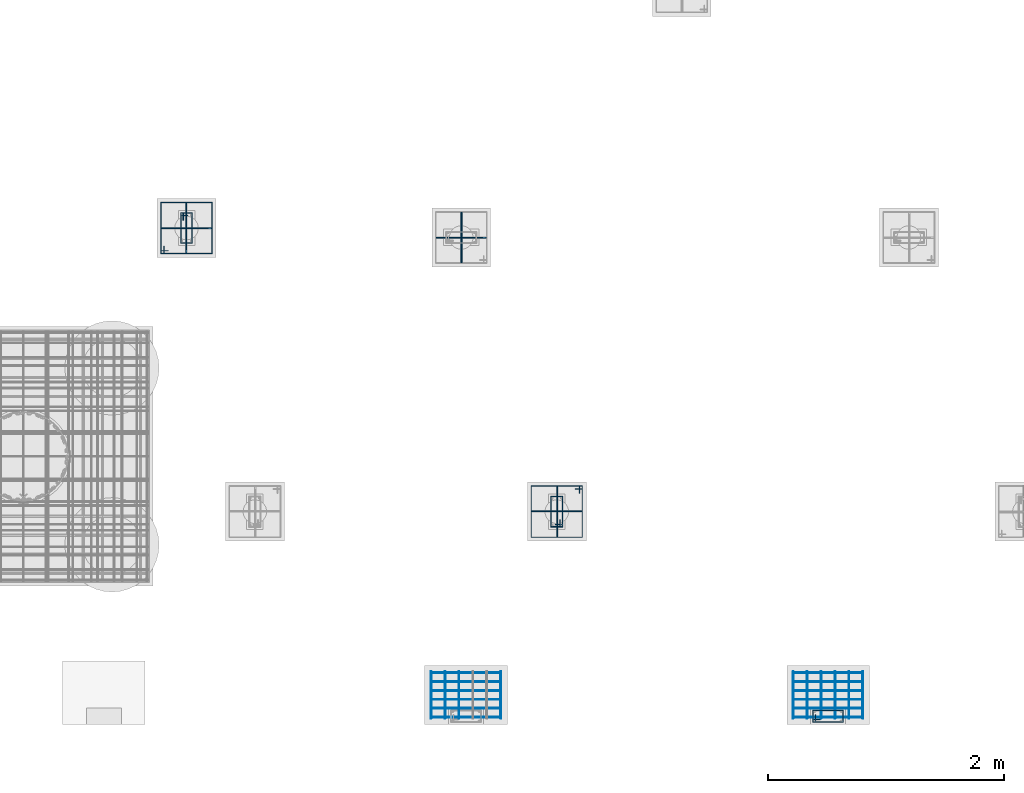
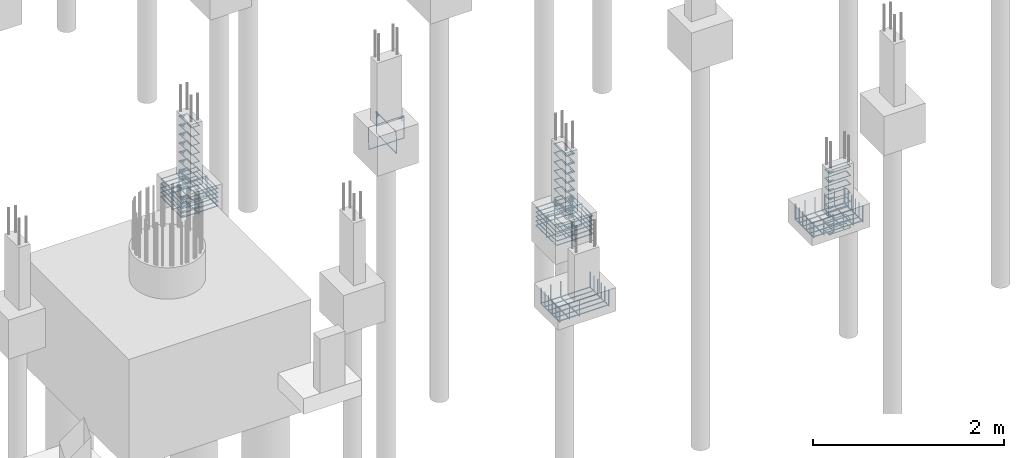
# One storey, part 78 of 119: 66 reinforcing bars.
"""IFC4 building model written with IfcOpenShell, lengths in centimetres."""

from ifc_helpers import new_model, entity, si_unit, derived_unit, frame, origin_with_axes, place, context, project, spatial, source, transform, mapped, element, save


model = new_model("IFC4")

# Units and contexts
model_context = context("Model", 3, precision=1e-05, world=origin_with_axes(), identifier="Body")
ifc_project = project(units=[si_unit("LENGTHUNIT", "METRE", prefix="CENTI"), si_unit("VOLUMEUNIT", "CUBIC_METRE"), si_unit("AREAUNIT", "SQUARE_METRE"), si_unit("POWERUNIT", "WATT"), si_unit("LUMINOUSFLUXUNIT", "LUMEN"), si_unit("ELECTRICCURRENTUNIT", "AMPERE"), si_unit("PRESSUREUNIT", "PASCAL", prefix="KILO"), si_unit("MASSUNIT", "GRAM", prefix="KILO"), si_unit("PLANEANGLEUNIT", "RADIAN"), derived_unit("VOLUMETRICFLOWRATEUNIT", [(si_unit("LENGTHUNIT", "METRE"), 3), (si_unit("TIMEUNIT", "SECOND"), -1)])], contexts=[model_context])

# Site, building, storey
site_placement = place(None, frame((-4000.0, 0.0, 0.0), z_axis=(0.0, 0.0, 1.0), x_axis=(1.0, 0.0, 0.0)))
site = spatial("IfcSite", under=ifc_project, at=site_placement, Name="PADRÃO")
building_placement = place(site_placement, frame((0.0, 0.0, -14.0)))
building = spatial("IfcBuilding", under=site, at=building_placement, Name="CRECHE PRÉ-ESCOLA TIPO 2")
storey_placement = place(building_placement, origin_with_axes())
storey = spatial("IfcBuildingStorey", under=building, at=storey_placement, Name="FUNDAÇÃO", CompositionType="ELEMENT", Elevation=-14.0)

# Reinforcing bars
shared_shape_1 = source(origin_with_axes(), model_context, "Body", "AdvancedSweptSolid", [
    entity("IfcSweptDiskSolid", entity("IfcCompositeCurve", [entity("IfcCompositeCurveSegment", "CONTINUOUS", True, entity("IfcPolyline", [entity("IfcCartesianPoint", [0.0, 0.0, 19.6]), entity("IfcCartesianPoint", [0.0, 0.0, 0.0])])), entity("IfcCompositeCurveSegment", "CONTINUOUS", True, entity("IfcPolyline", [entity("IfcCartesianPoint", [0.0, 0.0, 0.0]), entity("IfcCartesianPoint", [39.2, 0.0, 0.0])])), entity("IfcCompositeCurveSegment", "CONTINUOUS", True, entity("IfcPolyline", [entity("IfcCartesianPoint", [39.2, 0.0, 0.0]), entity("IfcCartesianPoint", [39.2, 0.0, 19.6])]))], False), 0.4),
])
for number, where, z_axis, x_axis, name in (
    (1, (2790.1, 7.4, -83.6), (0.0, 0.0, 1.0), (0.0, 1.0, 0.0), "P164 - Sapatas (inferior)"),
    (2, (2730.9, 7.4, -83.6), (0.0, 0.0, 1.0), (0.0, 1.0, 0.0), "P164 - Sapatas (inferior)"),
    (3, (2742.74, 7.4, -83.6), (0.0, 0.0, 1.0), (0.0, 1.0, 0.0), "P164 - Sapatas (inferior)"),
    (4, (2754.58, 7.4, -83.6), (0.0, 0.0, 1.0), (0.0, 1.0, 0.0), "P164 - Sapatas (inferior)"),
):
    element("IfcReinforcingBar", number, at=place(storey_placement, frame(where, z_axis=z_axis, x_axis=x_axis)), inside=storey, Name=name, BarLength=0.0, CrossSectionArea=5.0265482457e-05, NominalDiameter=0.8, PredefinedType="MAIN", context=model_context, shape_type="MappedRepresentation", body=[
        mapped(shared_shape_1, transform((0.0, 0.0, 0.0), scale=1.0)),
    ])
shared_shape_2 = source(origin_with_axes(), model_context, "Body", "AdvancedSweptSolid", [
    entity("IfcSweptDiskSolid", entity("IfcCompositeCurve", [entity("IfcCompositeCurveSegment", "CONTINUOUS", True, entity("IfcPolyline", [entity("IfcCartesianPoint", [0.0, 0.0, 18.8]), entity("IfcCartesianPoint", [0.0, 0.0, 0.0])])), entity("IfcCompositeCurveSegment", "CONTINUOUS", True, entity("IfcPolyline", [entity("IfcCartesianPoint", [0.0, 0.0, 0.0]), entity("IfcCartesianPoint", [0.0, 59.2, 0.0])])), entity("IfcCompositeCurveSegment", "CONTINUOUS", True, entity("IfcPolyline", [entity("IfcCartesianPoint", [0.0, 59.2, 0.0]), entity("IfcCartesianPoint", [0.0, 59.2, 18.8])]))], False), 0.4),
])
for number, where, z_axis, x_axis, name in (
    (5, (2790.1, 45.8, -82.8), (0.0, 0.0, 1.0), (0.0, 1.0, 0.0), "P164 - Sapatas (inferior)"),
    (6, (2790.1, 38.28, -82.8), (0.0, 0.0, 1.0), (0.0, 1.0, 0.0), "P164 - Sapatas (inferior)"),
    (7, (2790.1, 30.76, -82.8), (0.0, 0.0, 1.0), (0.0, 1.0, 0.0), "P164 - Sapatas (inferior)"),
    (8, (2790.1, 23.24, -82.8), (0.0, 0.0, 1.0), (0.0, 1.0, 0.0), "P164 - Sapatas (inferior)"),
    (9, (2790.1, 15.72, -82.8), (0.0, 0.0, 1.0), (0.0, 1.0, 0.0), "P164 - Sapatas (inferior)"),
    (10, (2790.1, 8.2, -82.8), (0.0, 0.0, 1.0), (0.0, 1.0, 0.0), "P164 - Sapatas (inferior)"),
):
    element("IfcReinforcingBar", number, at=place(storey_placement, frame(where, z_axis=z_axis, x_axis=x_axis)), inside=storey, Name=name, BarLength=0.0, CrossSectionArea=5.0265482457e-05, NominalDiameter=0.8, PredefinedType="MAIN", context=model_context, shape_type="MappedRepresentation", body=[
        mapped(shared_shape_2, transform((0.0, 0.0, 0.0), scale=1.0)),
    ])
shared_shape_3 = source(origin_with_axes(), model_context, "Body", "AdvancedSweptSolid", [
    entity("IfcSweptDiskSolid", entity("IfcCompositeCurve", [entity("IfcCompositeCurveSegment", "CONTINUOUS", True, entity("IfcPolyline", [entity("IfcCartesianPoint", [4.25, 21.75, 0.0]), entity("IfcCartesianPoint", [4.25, 27.75, 0.0])])), entity("IfcCompositeCurveSegment", "CONTINUOUS", True, entity("IfcPolyline", [entity("IfcCartesianPoint", [4.25, 27.75, 0.0]), entity("IfcCartesianPoint", [2.25, 27.75, 0.0])])), entity("IfcCompositeCurveSegment", "CONTINUOUS", True, entity("IfcPolyline", [entity("IfcCartesianPoint", [2.25, 27.75, 0.0]), entity("IfcCartesianPoint", [2.25, 2.25, 0.0])])), entity("IfcCompositeCurveSegment", "CONTINUOUS", True, entity("IfcPolyline", [entity("IfcCartesianPoint", [2.25, 2.25, 0.0]), entity("IfcCartesianPoint", [11.75, 2.25, 0.0])])), entity("IfcCompositeCurveSegment", "CONTINUOUS", True, entity("IfcPolyline", [entity("IfcCartesianPoint", [11.75, 2.25, 0.0]), entity("IfcCartesianPoint", [11.75, 27.75, -0.5])])), entity("IfcCompositeCurveSegment", "CONTINUOUS", True, entity("IfcPolyline", [entity("IfcCartesianPoint", [11.75, 27.75, -0.5]), entity("IfcCartesianPoint", [2.25, 27.75, -0.5])])), entity("IfcCompositeCurveSegment", "CONTINUOUS", True, entity("IfcPolyline", [entity("IfcCartesianPoint", [2.25, 27.75, -0.5]), entity("IfcCartesianPoint", [2.25, 25.75, -0.5])])), entity("IfcCompositeCurveSegment", "CONTINUOUS", True, entity("IfcPolyline", [entity("IfcCartesianPoint", [2.25, 25.75, -0.5]), entity("IfcCartesianPoint", [8.25, 25.75, -0.5])]))], False), 0.25),
])
for number, where, z_axis, x_axis, name in (
    (11, (3082.5, 2.0, -72.3125), (0.0, 0.0, 1.0), (0.0, 1.0, 0.0), "P165 - Estribo"),
    (12, (3082.5, 2.0, -27.8125), (0.0, 0.0, 1.0), (0.0, 1.0, 0.0), "P165 - Estribo"),
    (13, (3082.5, 2.0, -50.0625), (0.0, 0.0, 1.0), (0.0, 1.0, 0.0), "P165 - Estribo"),
    (14, (3082.5, 2.0, -38.9375), (0.0, 0.0, 1.0), (0.0, 1.0, 0.0), "P165 - Estribo"),
    (15, (3082.5, 2.0, -61.1875), (0.0, 0.0, 1.0), (0.0, 1.0, 0.0), "P165 - Estribo"),
    (16, (3082.5, 2.0, -83.4375), (0.0, 0.0, 1.0), (0.0, 1.0, 0.0), "P165 - Estribo"),
    (17, (3082.5, 2.0, -5.5625), (0.0, 0.0, 1.0), (0.0, 1.0, 0.0), "P165 - Estribo"),
    (18, (3082.5, 2.0, -16.6875), (0.0, 0.0, 1.0), (0.0, 1.0, 0.0), "P165 - Estribo"),
):
    element("IfcReinforcingBar", number, at=place(storey_placement, frame(where, z_axis=z_axis, x_axis=x_axis)), inside=storey, Name=name, BarLength=0.0, CrossSectionArea=1.9634954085e-05, NominalDiameter=0.5, PredefinedType="MAIN", context=model_context, shape_type="MappedRepresentation", body=[
        mapped(shared_shape_3, transform((0.0, 0.0, 0.0), scale=1.0)),
    ])
shared_shape_4 = source(origin_with_axes(), model_context, "Body", "AdvancedSweptSolid", [
    entity("IfcSweptDiskSolid", entity("IfcCompositeCurve", [entity("IfcCompositeCurveSegment", "CONTINUOUS", True, entity("IfcPolyline", [entity("IfcCartesianPoint", [0.0, 0.0, 19.6]), entity("IfcCartesianPoint", [0.0, 0.0, 0.0])])), entity("IfcCompositeCurveSegment", "CONTINUOUS", True, entity("IfcPolyline", [entity("IfcCartesianPoint", [0.0, 0.0, 0.0]), entity("IfcCartesianPoint", [39.2, 0.0, 0.0])])), entity("IfcCompositeCurveSegment", "CONTINUOUS", True, entity("IfcPolyline", [entity("IfcCartesianPoint", [39.2, 0.0, 0.0]), entity("IfcCartesianPoint", [39.2, 0.0, 19.6])]))], False), 0.4),
])
for number, where, z_axis, x_axis, name in (
    (19, (3073.42, 7.4, -83.6), (0.0, 0.0, 1.0), (0.0, 1.0, 0.0), "P165 - Sapatas (inferior)"),
    (20, (3037.9, 7.4, -83.6), (0.0, 0.0, 1.0), (0.0, 1.0, 0.0), "P165 - Sapatas (inferior)"),
    (21, (3061.58, 7.4, -83.6), (0.0, 0.0, 1.0), (0.0, 1.0, 0.0), "P165 - Sapatas (inferior)"),
    (22, (3085.26, 7.4, -83.6), (0.0, 0.0, 1.0), (0.0, 1.0, 0.0), "P165 - Sapatas (inferior)"),
    (23, (3097.1, 7.4, -83.6), (0.0, 0.0, 1.0), (0.0, 1.0, 0.0), "P165 - Sapatas (inferior)"),
    (24, (3049.74, 7.4, -83.6), (0.0, 0.0, 1.0), (0.0, 1.0, 0.0), "P165 - Sapatas (inferior)"),
):
    element("IfcReinforcingBar", number, at=place(storey_placement, frame(where, z_axis=z_axis, x_axis=x_axis)), inside=storey, Name=name, BarLength=0.0, CrossSectionArea=5.0265482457e-05, NominalDiameter=0.8, PredefinedType="MAIN", context=model_context, shape_type="MappedRepresentation", body=[
        mapped(shared_shape_4, transform((0.0, 0.0, 0.0), scale=1.0)),
    ])
shared_shape_5 = source(origin_with_axes(), model_context, "Body", "AdvancedSweptSolid", [
    entity("IfcSweptDiskSolid", entity("IfcCompositeCurve", [entity("IfcCompositeCurveSegment", "CONTINUOUS", True, entity("IfcPolyline", [entity("IfcCartesianPoint", [0.0, 0.0, 18.8]), entity("IfcCartesianPoint", [0.0, 0.0, 0.0])])), entity("IfcCompositeCurveSegment", "CONTINUOUS", True, entity("IfcPolyline", [entity("IfcCartesianPoint", [0.0, 0.0, 0.0]), entity("IfcCartesianPoint", [0.0, 59.2, 0.0])])), entity("IfcCompositeCurveSegment", "CONTINUOUS", True, entity("IfcPolyline", [entity("IfcCartesianPoint", [0.0, 59.2, 0.0]), entity("IfcCartesianPoint", [0.0, 59.2, 18.8])]))], False), 0.4),
])
for number, where, z_axis, x_axis, name in (
    (25, (3097.1, 45.8, -82.8), (0.0, 0.0, 1.0), (0.0, 1.0, 0.0), "P165 - Sapatas (inferior)"),
    (26, (3097.1, 38.28, -82.8), (0.0, 0.0, 1.0), (0.0, 1.0, 0.0), "P165 - Sapatas (inferior)"),
    (27, (3097.1, 30.76, -82.8), (0.0, 0.0, 1.0), (0.0, 1.0, 0.0), "P165 - Sapatas (inferior)"),
    (28, (3097.1, 8.2, -82.8), (0.0, 0.0, 1.0), (0.0, 1.0, 0.0), "P165 - Sapatas (inferior)"),
    (29, (3097.1, 23.24, -82.8), (0.0, 0.0, 1.0), (0.0, 1.0, 0.0), "P165 - Sapatas (inferior)"),
    (30, (3097.1, 15.72, -82.8), (0.0, 0.0, 1.0), (0.0, 1.0, 0.0), "P165 - Sapatas (inferior)"),
):
    element("IfcReinforcingBar", number, at=place(storey_placement, frame(where, z_axis=z_axis, x_axis=x_axis)), inside=storey, Name=name, BarLength=0.0, CrossSectionArea=5.0265482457e-05, NominalDiameter=0.8, PredefinedType="MAIN", context=model_context, shape_type="MappedRepresentation", body=[
        mapped(shared_shape_5, transform((0.0, 0.0, 0.0), scale=1.0)),
    ])
shared_shape_6 = source(origin_with_axes(), model_context, "Body", "AdvancedSweptSolid", [
    entity("IfcSweptDiskSolid", entity("IfcCompositeCurve", [entity("IfcCompositeCurveSegment", "CONTINUOUS", True, entity("IfcPolyline", [entity("IfcCartesianPoint", [4.25, 21.75, 0.0]), entity("IfcCartesianPoint", [4.25, 27.75, 0.0])])), entity("IfcCompositeCurveSegment", "CONTINUOUS", True, entity("IfcPolyline", [entity("IfcCartesianPoint", [4.25, 27.75, 0.0]), entity("IfcCartesianPoint", [2.25, 27.75, 0.0])])), entity("IfcCompositeCurveSegment", "CONTINUOUS", True, entity("IfcPolyline", [entity("IfcCartesianPoint", [2.25, 27.75, 0.0]), entity("IfcCartesianPoint", [2.25, 2.25, 0.0])])), entity("IfcCompositeCurveSegment", "CONTINUOUS", True, entity("IfcPolyline", [entity("IfcCartesianPoint", [2.25, 2.25, 0.0]), entity("IfcCartesianPoint", [11.75, 2.25, 0.0])])), entity("IfcCompositeCurveSegment", "CONTINUOUS", True, entity("IfcPolyline", [entity("IfcCartesianPoint", [11.75, 2.25, 0.0]), entity("IfcCartesianPoint", [11.75, 27.75, -0.5])])), entity("IfcCompositeCurveSegment", "CONTINUOUS", True, entity("IfcPolyline", [entity("IfcCartesianPoint", [11.75, 27.75, -0.5]), entity("IfcCartesianPoint", [2.25, 27.75, -0.5])])), entity("IfcCompositeCurveSegment", "CONTINUOUS", True, entity("IfcPolyline", [entity("IfcCartesianPoint", [2.25, 27.75, -0.5]), entity("IfcCartesianPoint", [2.25, 25.75, -0.5])])), entity("IfcCompositeCurveSegment", "CONTINUOUS", True, entity("IfcPolyline", [entity("IfcCartesianPoint", [2.25, 25.75, -0.5]), entity("IfcCartesianPoint", [8.25, 25.75, -0.5])]))], False), 0.25),
])
for number, where, z_axis, x_axis, name in (
    (31, (2516.5, 408.02, -109.25), (0.0, 0.0, 1.0), (1.0, 0.0, 0.0), "P146 - Estribo"),
    (32, (2516.5, 408.02, -5.75), (0.0, 0.0, 1.0), (1.0, 0.0, 0.0), "P146 - Estribo"),
    (33, (2516.5, 408.02, -17.25), (0.0, 0.0, 1.0), (1.0, 0.0, 0.0), "P146 - Estribo"),
    (34, (2516.5, 408.02, -28.75), (0.0, 0.0, 1.0), (1.0, 0.0, 0.0), "P146 - Estribo"),
    (35, (2516.5, 408.02, -40.25), (0.0, 0.0, 1.0), (1.0, 0.0, 0.0), "P146 - Estribo"),
    (36, (2516.5, 408.02, -51.75), (0.0, 0.0, 1.0), (1.0, 0.0, 0.0), "P146 - Estribo"),
    (37, (2516.5, 408.02, -74.75), (0.0, 0.0, 1.0), (1.0, 0.0, 0.0), "P146 - Estribo"),
    (38, (2516.5, 408.02, -97.75), (0.0, 0.0, 1.0), (1.0, 0.0, 0.0), "P146 - Estribo"),
    (39, (2516.5, 408.02, -86.25), (0.0, 0.0, 1.0), (1.0, 0.0, 0.0), "P146 - Estribo"),
    (40, (2516.5, 408.02, -63.25), (0.0, 0.0, 1.0), (1.0, 0.0, 0.0), "P146 - Estribo"),
):
    element("IfcReinforcingBar", number, at=place(storey_placement, frame(where, z_axis=z_axis, x_axis=x_axis)), inside=storey, Name=name, BarLength=0.0, CrossSectionArea=1.9634954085e-05, NominalDiameter=0.5, PredefinedType="MAIN", context=model_context, shape_type="MappedRepresentation", body=[
        mapped(shared_shape_6, transform((0.0, 0.0, 0.0), scale=1.0)),
    ])
shared_shape_7 = source(origin_with_axes(), model_context, "Body", "AdvancedSweptSolid", [
    entity("IfcSweptDiskSolid", entity("IfcCompositeCurve", [entity("IfcCompositeCurveSegment", "CONTINUOUS", True, entity("IfcPolyline", [entity("IfcCartesianPoint", [2508.075, 403.855, 0.0]), entity("IfcCartesianPoint", [2501.815, 403.855, 0.0])])), entity("IfcCompositeCurveSegment", "CONTINUOUS", True, entity("IfcPolyline", [entity("IfcCartesianPoint", [2501.815, 403.855, 0.0]), entity("IfcCartesianPoint", [2501.815, 401.335, 0.0])])), entity("IfcCompositeCurveSegment", "CONTINUOUS", True, entity("IfcPolyline", [entity("IfcCartesianPoint", [2501.815, 401.335, 0.0]), entity("IfcCartesianPoint", [2545.185, 401.335, 0.0])])), entity("IfcCompositeCurveSegment", "CONTINUOUS", True, entity("IfcPolyline", [entity("IfcCartesianPoint", [2545.185, 401.335, 0.0]), entity("IfcCartesianPoint", [2545.185, 444.705, 0.63])])), entity("IfcCompositeCurveSegment", "CONTINUOUS", True, entity("IfcPolyline", [entity("IfcCartesianPoint", [2545.185, 444.705, 0.63]), entity("IfcCartesianPoint", [2501.815, 444.705, 0.63])])), entity("IfcCompositeCurveSegment", "CONTINUOUS", True, entity("IfcPolyline", [entity("IfcCartesianPoint", [2501.815, 444.705, 0.63]), entity("IfcCartesianPoint", [2501.815, 401.335, 0.63])])), entity("IfcCompositeCurveSegment", "CONTINUOUS", True, entity("IfcPolyline", [entity("IfcCartesianPoint", [2501.815, 401.335, 0.63]), entity("IfcCartesianPoint", [2504.335, 401.335, 0.63])])), entity("IfcCompositeCurveSegment", "CONTINUOUS", True, entity("IfcPolyline", [entity("IfcCartesianPoint", [2504.335, 401.335, 0.63]), entity("IfcCartesianPoint", [2504.335, 407.595, 0.63])]))], False), 0.315),
])
for number, where, z_axis, x_axis, name in (
    (41, (0.0, 0.0, -97.875), (0.0, 0.0, 1.0), (1.0, 0.0, 0.0), "P146 - Blocos (estribos)"),
    (42, (0.0, 0.0, -103.525), (0.0, 0.0, 1.0), (1.0, 0.0, 0.0), "P146 - Blocos (estribos)"),
    (43, (0.0, 0.0, -109.175), (0.0, 0.0, 1.0), (1.0, 0.0, 0.0), "P146 - Blocos (estribos)"),
    (44, (0.0, 0.0, -86.575), (0.0, 0.0, 1.0), (1.0, 0.0, 0.0), "P146 - Blocos (estribos)"),
    (45, (0.0, 0.0, -92.225), (0.0, 0.0, 1.0), (1.0, 0.0, 0.0), "P146 - Blocos (estribos)"),
):
    element("IfcReinforcingBar", number, at=place(storey_placement, frame(where, z_axis=z_axis, x_axis=x_axis)), inside=storey, Name=name, BarLength=0.0, CrossSectionArea=3.1172453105e-05, NominalDiameter=0.63, PredefinedType="MAIN", context=model_context, shape_type="MappedRepresentation", body=[
        mapped(shared_shape_7, transform((0.0, 0.0, 0.0), scale=1.0)),
    ])
shared_shape_8 = source(origin_with_axes(), model_context, "Body", "AdvancedSweptSolid", [
    entity("IfcSweptDiskSolid", entity("IfcCompositeCurve", [entity("IfcCompositeCurveSegment", "CONTINUOUS", True, entity("IfcPolyline", [entity("IfcCartesianPoint", [-15.12, -12.0, 0.0]), entity("IfcCartesianPoint", [-21.12, -12.0, 0.0])])), entity("IfcCompositeCurveSegment", "CONTINUOUS", True, entity("IfcPolyline", [entity("IfcCartesianPoint", [-21.12, -12.0, 0.0]), entity("IfcCartesianPoint", [-21.12, -14.0, 0.0])])), entity("IfcCompositeCurveSegment", "CONTINUOUS", True, entity("IfcPolyline", [entity("IfcCartesianPoint", [-21.12, -14.0, 0.0]), entity("IfcCartesianPoint", [21.12, -14.0, 0.0])])), entity("IfcCompositeCurveSegment", "CONTINUOUS", True, entity("IfcPolyline", [entity("IfcCartesianPoint", [21.12, -14.0, 0.0]), entity("IfcCartesianPoint", [21.12, 14.0, 0.5])])), entity("IfcCompositeCurveSegment", "CONTINUOUS", True, entity("IfcPolyline", [entity("IfcCartesianPoint", [21.12, 14.0, 0.5]), entity("IfcCartesianPoint", [-21.12, 14.0, 0.5])])), entity("IfcCompositeCurveSegment", "CONTINUOUS", True, entity("IfcPolyline", [entity("IfcCartesianPoint", [-21.12, 14.0, 0.5]), entity("IfcCartesianPoint", [-21.12, -14.0, 0.5])])), entity("IfcCompositeCurveSegment", "CONTINUOUS", True, entity("IfcPolyline", [entity("IfcCartesianPoint", [-21.12, -14.0, 0.5]), entity("IfcCartesianPoint", [-19.12, -14.0, 0.5])])), entity("IfcCompositeCurveSegment", "CONTINUOUS", True, entity("IfcPolyline", [entity("IfcCartesianPoint", [-19.12, -14.0, 0.5]), entity("IfcCartesianPoint", [-19.12, -8.0, 0.5])]))], False), 0.25),
])
reinforcing_bar_1_placement = place(storey_placement, frame((2523.5, 423.02, -97.75), z_axis=(-1.0, 0.0, 0.0), x_axis=(0.0, 1.0, 0.0)))
element("IfcReinforcingBar", 46, at=reinforcing_bar_1_placement, inside=storey, Name="P146 - Blocos (estribos)", BarLength=0.0, CrossSectionArea=1.9634954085e-05, NominalDiameter=0.5, PredefinedType="MAIN", context=model_context, shape_type="MappedRepresentation", body=[
    mapped(shared_shape_8, transform((0.0, 0.0, 0.0), scale=1.0)),
])
shared_shape_9 = source(origin_with_axes(), model_context, "Body", "AdvancedSweptSolid", [
    entity("IfcSweptDiskSolid", entity("IfcCompositeCurve", [entity("IfcCompositeCurveSegment", "CONTINUOUS", True, entity("IfcPolyline", [entity("IfcCartesianPoint", [-15.12, -12.0, 0.0]), entity("IfcCartesianPoint", [-21.12, -12.0, 0.0])])), entity("IfcCompositeCurveSegment", "CONTINUOUS", True, entity("IfcPolyline", [entity("IfcCartesianPoint", [-21.12, -12.0, 0.0]), entity("IfcCartesianPoint", [-21.12, -14.0, 0.0])])), entity("IfcCompositeCurveSegment", "CONTINUOUS", True, entity("IfcPolyline", [entity("IfcCartesianPoint", [-21.12, -14.0, 0.0]), entity("IfcCartesianPoint", [21.12, -14.0, 0.0])])), entity("IfcCompositeCurveSegment", "CONTINUOUS", True, entity("IfcPolyline", [entity("IfcCartesianPoint", [21.12, -14.0, 0.0]), entity("IfcCartesianPoint", [21.12, 14.0, 0.5])])), entity("IfcCompositeCurveSegment", "CONTINUOUS", True, entity("IfcPolyline", [entity("IfcCartesianPoint", [21.12, 14.0, 0.5]), entity("IfcCartesianPoint", [-21.12, 14.0, 0.5])])), entity("IfcCompositeCurveSegment", "CONTINUOUS", True, entity("IfcPolyline", [entity("IfcCartesianPoint", [-21.12, 14.0, 0.5]), entity("IfcCartesianPoint", [-21.12, -14.0, 0.5])])), entity("IfcCompositeCurveSegment", "CONTINUOUS", True, entity("IfcPolyline", [entity("IfcCartesianPoint", [-21.12, -14.0, 0.5]), entity("IfcCartesianPoint", [-19.12, -14.0, 0.5])])), entity("IfcCompositeCurveSegment", "CONTINUOUS", True, entity("IfcPolyline", [entity("IfcCartesianPoint", [-19.12, -14.0, 0.5]), entity("IfcCartesianPoint", [-19.12, -8.0, 0.5])]))], False), 0.25),
])
reinforcing_bar_2_placement = place(storey_placement, frame((2523.5, 423.02, -97.75), z_axis=(0.0, -1.0, 0.0), x_axis=(-1.0, 0.0, 0.0)))
element("IfcReinforcingBar", 47, at=reinforcing_bar_2_placement, inside=storey, Name="P146 - Blocos (estribos)", BarLength=0.0, CrossSectionArea=1.9634954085e-05, NominalDiameter=0.5, PredefinedType="MAIN", context=model_context, shape_type="MappedRepresentation", body=[
    mapped(shared_shape_9, transform((0.0, 0.0, 0.0), scale=1.0)),
])
shared_shape_10 = source(origin_with_axes(), model_context, "Body", "AdvancedSweptSolid", [
    entity("IfcSweptDiskSolid", entity("IfcCompositeCurve", [entity("IfcCompositeCurveSegment", "CONTINUOUS", True, entity("IfcPolyline", [entity("IfcCartesianPoint", [-15.12, -12.0, 0.0]), entity("IfcCartesianPoint", [-21.12, -12.0, 0.0])])), entity("IfcCompositeCurveSegment", "CONTINUOUS", True, entity("IfcPolyline", [entity("IfcCartesianPoint", [-21.12, -12.0, 0.0]), entity("IfcCartesianPoint", [-21.12, -14.0, 0.0])])), entity("IfcCompositeCurveSegment", "CONTINUOUS", True, entity("IfcPolyline", [entity("IfcCartesianPoint", [-21.12, -14.0, 0.0]), entity("IfcCartesianPoint", [21.12, -14.0, 0.0])])), entity("IfcCompositeCurveSegment", "CONTINUOUS", True, entity("IfcPolyline", [entity("IfcCartesianPoint", [21.12, -14.0, 0.0]), entity("IfcCartesianPoint", [21.12, 14.0, 0.5])])), entity("IfcCompositeCurveSegment", "CONTINUOUS", True, entity("IfcPolyline", [entity("IfcCartesianPoint", [21.12, 14.0, 0.5]), entity("IfcCartesianPoint", [-21.12, 14.0, 0.5])])), entity("IfcCompositeCurveSegment", "CONTINUOUS", True, entity("IfcPolyline", [entity("IfcCartesianPoint", [-21.12, 14.0, 0.5]), entity("IfcCartesianPoint", [-21.12, -14.0, 0.5])])), entity("IfcCompositeCurveSegment", "CONTINUOUS", True, entity("IfcPolyline", [entity("IfcCartesianPoint", [-21.12, -14.0, 0.5]), entity("IfcCartesianPoint", [-19.12, -14.0, 0.5])])), entity("IfcCompositeCurveSegment", "CONTINUOUS", True, entity("IfcPolyline", [entity("IfcCartesianPoint", [-19.12, -14.0, 0.5]), entity("IfcCartesianPoint", [-19.12, -8.0, 0.5])]))], False), 0.25),
])
reinforcing_bar_3_placement = place(storey_placement, frame((2756.46, 415.01, -97.75), z_axis=(0.0, -1.0, 0.0), x_axis=(-1.0, 0.0, 0.0)))
element("IfcReinforcingBar", 48, at=reinforcing_bar_3_placement, inside=storey, Name="P147 - Blocos (estribos)", BarLength=0.0, CrossSectionArea=1.9634954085e-05, NominalDiameter=0.5, PredefinedType="MAIN", context=model_context, shape_type="MappedRepresentation", body=[
    mapped(shared_shape_10, transform((0.0, 0.0, 0.0), scale=1.0)),
])
shared_shape_11 = source(origin_with_axes(), model_context, "Body", "AdvancedSweptSolid", [
    entity("IfcSweptDiskSolid", entity("IfcCompositeCurve", [entity("IfcCompositeCurveSegment", "CONTINUOUS", True, entity("IfcPolyline", [entity("IfcCartesianPoint", [-15.12, -12.0, 0.0]), entity("IfcCartesianPoint", [-21.12, -12.0, 0.0])])), entity("IfcCompositeCurveSegment", "CONTINUOUS", True, entity("IfcPolyline", [entity("IfcCartesianPoint", [-21.12, -12.0, 0.0]), entity("IfcCartesianPoint", [-21.12, -14.0, 0.0])])), entity("IfcCompositeCurveSegment", "CONTINUOUS", True, entity("IfcPolyline", [entity("IfcCartesianPoint", [-21.12, -14.0, 0.0]), entity("IfcCartesianPoint", [21.12, -14.0, 0.0])])), entity("IfcCompositeCurveSegment", "CONTINUOUS", True, entity("IfcPolyline", [entity("IfcCartesianPoint", [21.12, -14.0, 0.0]), entity("IfcCartesianPoint", [21.12, 14.0, 0.5])])), entity("IfcCompositeCurveSegment", "CONTINUOUS", True, entity("IfcPolyline", [entity("IfcCartesianPoint", [21.12, 14.0, 0.5]), entity("IfcCartesianPoint", [-21.12, 14.0, 0.5])])), entity("IfcCompositeCurveSegment", "CONTINUOUS", True, entity("IfcPolyline", [entity("IfcCartesianPoint", [-21.12, 14.0, 0.5]), entity("IfcCartesianPoint", [-21.12, -14.0, 0.5])])), entity("IfcCompositeCurveSegment", "CONTINUOUS", True, entity("IfcPolyline", [entity("IfcCartesianPoint", [-21.12, -14.0, 0.5]), entity("IfcCartesianPoint", [-19.12, -14.0, 0.5])])), entity("IfcCompositeCurveSegment", "CONTINUOUS", True, entity("IfcPolyline", [entity("IfcCartesianPoint", [-19.12, -14.0, 0.5]), entity("IfcCartesianPoint", [-19.12, -8.0, 0.5])]))], False), 0.25),
])
reinforcing_bar_4_placement = place(storey_placement, frame((2756.46, 415.01, -97.75), z_axis=(1.0, 0.0, 0.0), x_axis=(0.0, -1.0, 0.0)))
element("IfcReinforcingBar", 49, at=reinforcing_bar_4_placement, inside=storey, Name="P147 - Blocos (estribos)", BarLength=0.0, CrossSectionArea=1.9634954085e-05, NominalDiameter=0.5, PredefinedType="MAIN", context=model_context, shape_type="MappedRepresentation", body=[
    mapped(shared_shape_11, transform((0.0, 0.0, 0.0), scale=1.0)),
])
shared_shape_12 = source(origin_with_axes(), model_context, "Body", "AdvancedSweptSolid", [
    entity("IfcSweptDiskSolid", entity("IfcCompositeCurve", [entity("IfcCompositeCurveSegment", "CONTINUOUS", True, entity("IfcPolyline", [entity("IfcCartesianPoint", [4.25, 21.75, 0.0]), entity("IfcCartesianPoint", [4.25, 27.75, 0.0])])), entity("IfcCompositeCurveSegment", "CONTINUOUS", True, entity("IfcPolyline", [entity("IfcCartesianPoint", [4.25, 27.75, 0.0]), entity("IfcCartesianPoint", [2.25, 27.75, 0.0])])), entity("IfcCompositeCurveSegment", "CONTINUOUS", True, entity("IfcPolyline", [entity("IfcCartesianPoint", [2.25, 27.75, 0.0]), entity("IfcCartesianPoint", [2.25, 2.25, 0.0])])), entity("IfcCompositeCurveSegment", "CONTINUOUS", True, entity("IfcPolyline", [entity("IfcCartesianPoint", [2.25, 2.25, 0.0]), entity("IfcCartesianPoint", [11.75, 2.25, 0.0])])), entity("IfcCompositeCurveSegment", "CONTINUOUS", True, entity("IfcPolyline", [entity("IfcCartesianPoint", [11.75, 2.25, 0.0]), entity("IfcCartesianPoint", [11.75, 27.75, -0.5])])), entity("IfcCompositeCurveSegment", "CONTINUOUS", True, entity("IfcPolyline", [entity("IfcCartesianPoint", [11.75, 27.75, -0.5]), entity("IfcCartesianPoint", [2.25, 27.75, -0.5])])), entity("IfcCompositeCurveSegment", "CONTINUOUS", True, entity("IfcPolyline", [entity("IfcCartesianPoint", [2.25, 27.75, -0.5]), entity("IfcCartesianPoint", [2.25, 25.75, -0.5])])), entity("IfcCompositeCurveSegment", "CONTINUOUS", True, entity("IfcPolyline", [entity("IfcCartesianPoint", [2.25, 25.75, -0.5]), entity("IfcCartesianPoint", [8.25, 25.75, -0.5])]))], False), 0.25),
])
for number, where, z_axis, x_axis, name in (
    (50, (2844.49, 197.5, -17.25), (0.0, 0.0, 1.0), (-1.0, 0.0, 0.0), "P153 - Estribo"),
    (51, (2844.49, 197.5, -28.75), (0.0, 0.0, 1.0), (-1.0, 0.0, 0.0), "P153 - Estribo"),
    (52, (2844.49, 197.5, -40.25), (0.0, 0.0, 1.0), (-1.0, 0.0, 0.0), "P153 - Estribo"),
    (53, (2844.49, 197.5, -51.75), (0.0, 0.0, 1.0), (-1.0, 0.0, 0.0), "P153 - Estribo"),
    (54, (2844.49, 197.5, -5.75), (0.0, 0.0, 1.0), (-1.0, 0.0, 0.0), "P153 - Estribo"),
    (55, (2844.49, 197.5, -63.25), (0.0, 0.0, 1.0), (-1.0, 0.0, 0.0), "P153 - Estribo"),
    (56, (2844.49, 197.5, -74.75), (0.0, 0.0, 1.0), (-1.0, 0.0, 0.0), "P153 - Estribo"),
    (57, (2844.49, 197.5, -86.25), (0.0, 0.0, 1.0), (-1.0, 0.0, 0.0), "P153 - Estribo"),
    (58, (2844.49, 197.5, -97.75), (0.0, 0.0, 1.0), (-1.0, 0.0, 0.0), "P153 - Estribo"),
    (59, (2844.49, 197.5, -109.25), (0.0, 0.0, 1.0), (-1.0, 0.0, 0.0), "P153 - Estribo"),
):
    element("IfcReinforcingBar", number, at=place(storey_placement, frame(where, z_axis=z_axis, x_axis=x_axis)), inside=storey, Name=name, BarLength=0.0, CrossSectionArea=1.9634954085e-05, NominalDiameter=0.5, PredefinedType="MAIN", context=model_context, shape_type="MappedRepresentation", body=[
        mapped(shared_shape_12, transform((0.0, 0.0, 0.0), scale=1.0)),
    ])
shared_shape_13 = source(origin_with_axes(), model_context, "Body", "AdvancedSweptSolid", [
    entity("IfcSweptDiskSolid", entity("IfcCompositeCurve", [entity("IfcCompositeCurveSegment", "CONTINUOUS", True, entity("IfcPolyline", [entity("IfcCartesianPoint", [2852.915, 201.665, 0.0]), entity("IfcCartesianPoint", [2859.175, 201.665, 0.0])])), entity("IfcCompositeCurveSegment", "CONTINUOUS", True, entity("IfcPolyline", [entity("IfcCartesianPoint", [2859.175, 201.665, 0.0]), entity("IfcCartesianPoint", [2859.175, 204.185, 0.0])])), entity("IfcCompositeCurveSegment", "CONTINUOUS", True, entity("IfcPolyline", [entity("IfcCartesianPoint", [2859.175, 204.185, 0.0]), entity("IfcCartesianPoint", [2815.805, 204.185, 0.0])])), entity("IfcCompositeCurveSegment", "CONTINUOUS", True, entity("IfcPolyline", [entity("IfcCartesianPoint", [2815.805, 204.185, 0.0]), entity("IfcCartesianPoint", [2815.805, 160.815, 0.63])])), entity("IfcCompositeCurveSegment", "CONTINUOUS", True, entity("IfcPolyline", [entity("IfcCartesianPoint", [2815.805, 160.815, 0.63]), entity("IfcCartesianPoint", [2859.175, 160.815, 0.63])])), entity("IfcCompositeCurveSegment", "CONTINUOUS", True, entity("IfcPolyline", [entity("IfcCartesianPoint", [2859.175, 160.815, 0.63]), entity("IfcCartesianPoint", [2859.175, 204.185, 0.63])])), entity("IfcCompositeCurveSegment", "CONTINUOUS", True, entity("IfcPolyline", [entity("IfcCartesianPoint", [2859.175, 204.185, 0.63]), entity("IfcCartesianPoint", [2856.655, 204.185, 0.63])])), entity("IfcCompositeCurveSegment", "CONTINUOUS", True, entity("IfcPolyline", [entity("IfcCartesianPoint", [2856.655, 204.185, 0.63]), entity("IfcCartesianPoint", [2856.655, 197.925, 0.63])]))], False), 0.315),
])
for number, where, z_axis, x_axis, name in (
    (60, (0.0, 0.0, -109.175), (0.0, 0.0, 1.0), (1.0, 0.0, 0.0), "P153 - Blocos (estribos)"),
    (61, (0.0, 0.0, -103.525), (0.0, 0.0, 1.0), (1.0, 0.0, 0.0), "P153 - Blocos (estribos)"),
    (62, (0.0, 0.0, -97.875), (0.0, 0.0, 1.0), (1.0, 0.0, 0.0), "P153 - Blocos (estribos)"),
    (63, (0.0, 0.0, -92.225), (0.0, 0.0, 1.0), (1.0, 0.0, 0.0), "P153 - Blocos (estribos)"),
    (64, (0.0, 0.0, -86.575), (0.0, 0.0, 1.0), (1.0, 0.0, 0.0), "P153 - Blocos (estribos)"),
):
    element("IfcReinforcingBar", number, at=place(storey_placement, frame(where, z_axis=z_axis, x_axis=x_axis)), inside=storey, Name=name, BarLength=0.0, CrossSectionArea=3.1172453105e-05, NominalDiameter=0.63, PredefinedType="MAIN", context=model_context, shape_type="MappedRepresentation", body=[
        mapped(shared_shape_13, transform((0.0, 0.0, 0.0), scale=1.0)),
    ])
shared_shape_14 = source(origin_with_axes(), model_context, "Body", "AdvancedSweptSolid", [
    entity("IfcSweptDiskSolid", entity("IfcCompositeCurve", [entity("IfcCompositeCurveSegment", "CONTINUOUS", True, entity("IfcPolyline", [entity("IfcCartesianPoint", [-15.12, -12.0, 0.0]), entity("IfcCartesianPoint", [-21.12, -12.0, 0.0])])), entity("IfcCompositeCurveSegment", "CONTINUOUS", True, entity("IfcPolyline", [entity("IfcCartesianPoint", [-21.12, -12.0, 0.0]), entity("IfcCartesianPoint", [-21.12, -14.0, 0.0])])), entity("IfcCompositeCurveSegment", "CONTINUOUS", True, entity("IfcPolyline", [entity("IfcCartesianPoint", [-21.12, -14.0, 0.0]), entity("IfcCartesianPoint", [21.12, -14.0, 0.0])])), entity("IfcCompositeCurveSegment", "CONTINUOUS", True, entity("IfcPolyline", [entity("IfcCartesianPoint", [21.12, -14.0, 0.0]), entity("IfcCartesianPoint", [21.12, 14.0, 0.5])])), entity("IfcCompositeCurveSegment", "CONTINUOUS", True, entity("IfcPolyline", [entity("IfcCartesianPoint", [21.12, 14.0, 0.5]), entity("IfcCartesianPoint", [-21.12, 14.0, 0.5])])), entity("IfcCompositeCurveSegment", "CONTINUOUS", True, entity("IfcPolyline", [entity("IfcCartesianPoint", [-21.12, 14.0, 0.5]), entity("IfcCartesianPoint", [-21.12, -14.0, 0.5])])), entity("IfcCompositeCurveSegment", "CONTINUOUS", True, entity("IfcPolyline", [entity("IfcCartesianPoint", [-21.12, -14.0, 0.5]), entity("IfcCartesianPoint", [-19.12, -14.0, 0.5])])), entity("IfcCompositeCurveSegment", "CONTINUOUS", True, entity("IfcPolyline", [entity("IfcCartesianPoint", [-19.12, -14.0, 0.5]), entity("IfcCartesianPoint", [-19.12, -8.0, 0.5])]))], False), 0.25),
])
reinforcing_bar_5_placement = place(storey_placement, frame((2837.49, 182.5, -97.75), z_axis=(1.0, 0.0, 0.0), x_axis=(0.0, -1.0, 0.0)))
element("IfcReinforcingBar", 65, at=reinforcing_bar_5_placement, inside=storey, Name="P153 - Blocos (estribos)", BarLength=0.0, CrossSectionArea=1.9634954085e-05, NominalDiameter=0.5, PredefinedType="MAIN", context=model_context, shape_type="MappedRepresentation", body=[
    mapped(shared_shape_14, transform((0.0, 0.0, 0.0), scale=1.0)),
])
shared_shape_15 = source(origin_with_axes(), model_context, "Body", "AdvancedSweptSolid", [
    entity("IfcSweptDiskSolid", entity("IfcCompositeCurve", [entity("IfcCompositeCurveSegment", "CONTINUOUS", True, entity("IfcPolyline", [entity("IfcCartesianPoint", [-15.12, -12.0, 0.0]), entity("IfcCartesianPoint", [-21.12, -12.0, 0.0])])), entity("IfcCompositeCurveSegment", "CONTINUOUS", True, entity("IfcPolyline", [entity("IfcCartesianPoint", [-21.12, -12.0, 0.0]), entity("IfcCartesianPoint", [-21.12, -14.0, 0.0])])), entity("IfcCompositeCurveSegment", "CONTINUOUS", True, entity("IfcPolyline", [entity("IfcCartesianPoint", [-21.12, -14.0, 0.0]), entity("IfcCartesianPoint", [21.12, -14.0, 0.0])])), entity("IfcCompositeCurveSegment", "CONTINUOUS", True, entity("IfcPolyline", [entity("IfcCartesianPoint", [21.12, -14.0, 0.0]), entity("IfcCartesianPoint", [21.12, 14.0, 0.5])])), entity("IfcCompositeCurveSegment", "CONTINUOUS", True, entity("IfcPolyline", [entity("IfcCartesianPoint", [21.12, 14.0, 0.5]), entity("IfcCartesianPoint", [-21.12, 14.0, 0.5])])), entity("IfcCompositeCurveSegment", "CONTINUOUS", True, entity("IfcPolyline", [entity("IfcCartesianPoint", [-21.12, 14.0, 0.5]), entity("IfcCartesianPoint", [-21.12, -14.0, 0.5])])), entity("IfcCompositeCurveSegment", "CONTINUOUS", True, entity("IfcPolyline", [entity("IfcCartesianPoint", [-21.12, -14.0, 0.5]), entity("IfcCartesianPoint", [-19.12, -14.0, 0.5])])), entity("IfcCompositeCurveSegment", "CONTINUOUS", True, entity("IfcPolyline", [entity("IfcCartesianPoint", [-19.12, -14.0, 0.5]), entity("IfcCartesianPoint", [-19.12, -8.0, 0.5])]))], False), 0.25),
])
reinforcing_bar_6_placement = place(storey_placement, frame((2837.49, 182.5, -97.75), z_axis=(0.0, 1.0, 0.0), x_axis=(1.0, 0.0, 0.0)))
element("IfcReinforcingBar", 66, at=reinforcing_bar_6_placement, inside=storey, Name="P153 - Blocos (estribos)", BarLength=0.0, CrossSectionArea=1.9634954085e-05, NominalDiameter=0.5, PredefinedType="MAIN", context=model_context, shape_type="MappedRepresentation", body=[
    mapped(shared_shape_15, transform((0.0, 0.0, 0.0), scale=1.0)),
])

save(model, "model.ifc")
